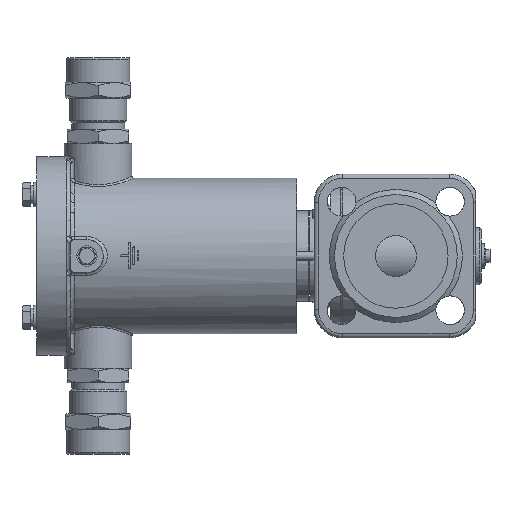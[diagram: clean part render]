
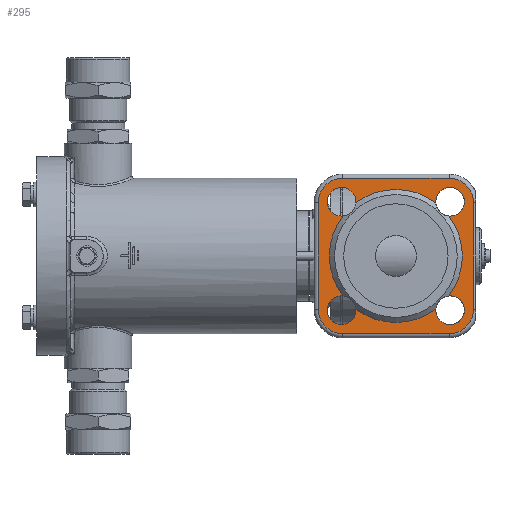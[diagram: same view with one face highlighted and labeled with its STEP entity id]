
A CAD part, left-side view. The second image highlights one B-rep face of the part: STEP entity #295.
In plain terms, the highlighted planar face has unit normal (-1, 0, 0).
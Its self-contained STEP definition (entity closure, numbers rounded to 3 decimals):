
#295=ADVANCED_FACE('',(#6980,#6982),#6984,.T.);
#6980=FACE_BOUND('',#6981,.T.);
#6981=EDGE_LOOP('',(#22052,#22053,#22054,#22055,#22056,#22057,#22058,#22059,#22060,
#22061,#22062,#22063,#22064));
#6982=FACE_OUTER_BOUND('',#6983,.T.);
#6983=EDGE_LOOP('',(#22065,#22066,#22067,#22068,#22069,#22070,#22071,#22072));
#6984=PLANE('',#6985);
#6985=AXIS2_PLACEMENT_3D('',#6986,#6987,#6988);
#6986=CARTESIAN_POINT('',(-63.5,0.,0.));
#6987=DIRECTION('',(-1.,0.,0.));
#6988=DIRECTION('',(0.,1.,0.));
#22052=ORIENTED_EDGE('',*,*,#34849,.T.);
#22053=ORIENTED_EDGE('',*,*,#34851,.T.);
#22054=ORIENTED_EDGE('',*,*,#34914,.T.);
#22055=ORIENTED_EDGE('',*,*,#34837,.T.);
#22056=ORIENTED_EDGE('',*,*,#34839,.T.);
#22057=ORIENTED_EDGE('',*,*,#34915,.T.);
#22058=ORIENTED_EDGE('',*,*,#34841,.T.);
#22059=ORIENTED_EDGE('',*,*,#34843,.T.);
#22060=ORIENTED_EDGE('',*,*,#34916,.T.);
#22061=ORIENTED_EDGE('',*,*,#34917,.T.);
#22062=ORIENTED_EDGE('',*,*,#34845,.T.);
#22063=ORIENTED_EDGE('',*,*,#34847,.T.);
#22064=ORIENTED_EDGE('',*,*,#34918,.T.);
#22065=ORIENTED_EDGE('',*,*,#34919,.T.);
#22066=ORIENTED_EDGE('',*,*,#34920,.T.);
#22067=ORIENTED_EDGE('',*,*,#34921,.T.);
#22068=ORIENTED_EDGE('',*,*,#34922,.T.);
#22069=ORIENTED_EDGE('',*,*,#34923,.T.);
#22070=ORIENTED_EDGE('',*,*,#34924,.T.);
#22071=ORIENTED_EDGE('',*,*,#34925,.T.);
#22072=ORIENTED_EDGE('',*,*,#34926,.T.);
#34837=EDGE_CURVE('',#39831,#39829,#39832,.F.);
#34839=EDGE_CURVE('',#39829,#39833,#39835,.F.);
#34841=EDGE_CURVE('',#39838,#39836,#39839,.F.);
#34843=EDGE_CURVE('',#39836,#39840,#39842,.F.);
#34845=EDGE_CURVE('',#39845,#39843,#39846,.F.);
#34847=EDGE_CURVE('',#39843,#39847,#39849,.F.);
#34849=EDGE_CURVE('',#39852,#39850,#39853,.F.);
#34851=EDGE_CURVE('',#39850,#39854,#39856,.F.);
#34914=EDGE_CURVE('',#39854,#39831,#39956,.T.);
#34915=EDGE_CURVE('',#39833,#39838,#39957,.T.);
#34916=EDGE_CURVE('',#39840,#39958,#39959,.T.);
#34917=EDGE_CURVE('',#39958,#39845,#39960,.T.);
#34918=EDGE_CURVE('',#39847,#39852,#39961,.T.);
#34919=EDGE_CURVE('',#39962,#39963,#39964,.F.);
#34920=EDGE_CURVE('',#39963,#39965,#39966,.T.);
#34921=EDGE_CURVE('',#39965,#39967,#39968,.F.);
#34922=EDGE_CURVE('',#39967,#39969,#39970,.T.);
#34923=EDGE_CURVE('',#39969,#39971,#39972,.F.);
#34924=EDGE_CURVE('',#39971,#39973,#39974,.T.);
#34925=EDGE_CURVE('',#39973,#39975,#39976,.F.);
#34926=EDGE_CURVE('',#39975,#39962,#39977,.T.);
#39829=VERTEX_POINT('',#51889);
#39831=VERTEX_POINT('',#51893);
#39832=CIRCLE('',#51894,7.);
#39833=VERTEX_POINT('',#51898);
#39835=CIRCLE('',#51997,7.);
#39836=VERTEX_POINT('',#52001);
#39838=VERTEX_POINT('',#52005);
#39839=CIRCLE('',#52006,7.);
#39840=VERTEX_POINT('',#52010);
#39842=CIRCLE('',#52109,7.);
#39843=VERTEX_POINT('',#52113);
#39845=VERTEX_POINT('',#52117);
#39846=CIRCLE('',#52118,7.);
#39847=VERTEX_POINT('',#52122);
#39849=CIRCLE('',#52221,7.);
#39850=VERTEX_POINT('',#52225);
#39852=VERTEX_POINT('',#52229);
#39853=CIRCLE('',#52230,7.);
#39854=VERTEX_POINT('',#52234);
#39856=CIRCLE('',#52333,7.);
#39956=CIRCLE('',#52825,32.5);
#39957=CIRCLE('',#52829,32.5);
#39958=VERTEX_POINT('',#52833);
#39959=CIRCLE('',#52834,32.5);
#39960=CIRCLE('',#52838,32.5);
#39961=CIRCLE('',#52842,32.5);
#39962=VERTEX_POINT('',#52846);
#39963=VERTEX_POINT('',#52847);
#39964=LINE('',#52848,#52849);
#39965=VERTEX_POINT('',#52851);
#39966=CIRCLE('',#52852,12.);
#39967=VERTEX_POINT('',#52856);
#39968=LINE('',#52857,#52858);
#39969=VERTEX_POINT('',#52860);
#39970=CIRCLE('',#52861,12.);
#39971=VERTEX_POINT('',#52865);
#39972=LINE('',#52866,#52867);
#39973=VERTEX_POINT('',#52869);
#39974=CIRCLE('',#52870,12.);
#39975=VERTEX_POINT('',#52874);
#39976=LINE('',#52875,#52876);
#39977=CIRCLE('',#52878,12.);
#51889=CARTESIAN_POINT('',(-63.5,-26.517,-33.517));
#51893=CARTESIAN_POINT('',(-63.5,-25.972,-19.538));
#51894=AXIS2_PLACEMENT_3D('',#51895,#51896,#51897);
#51895=CARTESIAN_POINT('',(-63.5,-26.517,-26.517));
#51896=DIRECTION('',(-1.,0.,-0.));
#51897=DIRECTION('',(0.,0.,-1.));
#51898=CARTESIAN_POINT('',(-63.5,-19.538,-25.972));
#51997=AXIS2_PLACEMENT_3D('',#51998,#51999,#52000);
#51998=CARTESIAN_POINT('',(-63.5,-26.517,-26.517));
#51999=DIRECTION('',(-1.,0.,-0.));
#52000=DIRECTION('',(0.,0.997,0.078));
#52001=CARTESIAN_POINT('',(-63.5,26.517,-33.517));
#52005=CARTESIAN_POINT('',(-63.5,19.538,-25.972));
#52006=AXIS2_PLACEMENT_3D('',#52007,#52008,#52009);
#52007=CARTESIAN_POINT('',(-63.5,26.517,-26.517));
#52008=DIRECTION('',(-1.,0.,-0.));
#52009=DIRECTION('',(0.,0.,-1.));
#52010=CARTESIAN_POINT('',(-63.5,25.972,-19.538));
#52109=AXIS2_PLACEMENT_3D('',#52110,#52111,#52112);
#52110=CARTESIAN_POINT('',(-63.5,26.517,-26.517));
#52111=DIRECTION('',(-1.,0.,-0.));
#52112=DIRECTION('',(0.,-0.078,0.997));
#52113=CARTESIAN_POINT('',(-63.5,26.517,19.517));
#52117=CARTESIAN_POINT('',(-63.5,25.972,19.538));
#52118=AXIS2_PLACEMENT_3D('',#52119,#52120,#52121);
#52119=CARTESIAN_POINT('',(-63.5,26.517,26.517));
#52120=DIRECTION('',(-1.,0.,-0.));
#52121=DIRECTION('',(0.,0.,-1.));
#52122=CARTESIAN_POINT('',(-63.5,19.538,25.972));
#52221=AXIS2_PLACEMENT_3D('',#52222,#52223,#52224);
#52222=CARTESIAN_POINT('',(-63.5,26.517,26.517));
#52223=DIRECTION('',(-1.,0.,-0.));
#52224=DIRECTION('',(0.,-0.997,-0.078));
#52225=CARTESIAN_POINT('',(-63.5,-26.517,19.517));
#52229=CARTESIAN_POINT('',(-63.5,-19.538,25.972));
#52230=AXIS2_PLACEMENT_3D('',#52231,#52232,#52233);
#52231=CARTESIAN_POINT('',(-63.5,-26.517,26.517));
#52232=DIRECTION('',(-1.,0.,-0.));
#52233=DIRECTION('',(0.,0.,-1.));
#52234=CARTESIAN_POINT('',(-63.5,-25.972,19.538));
#52333=AXIS2_PLACEMENT_3D('',#52334,#52335,#52336);
#52334=CARTESIAN_POINT('',(-63.5,-26.517,26.517));
#52335=DIRECTION('',(-1.,0.,-0.));
#52336=DIRECTION('',(0.,0.078,-0.997));
#52825=AXIS2_PLACEMENT_3D('',#52826,#52827,#52828);
#52826=CARTESIAN_POINT('',(-63.5,0.,0.));
#52827=DIRECTION('',(1.,0.,0.));
#52828=DIRECTION('',(0.,-0.799,0.601));
#52829=AXIS2_PLACEMENT_3D('',#52830,#52831,#52832);
#52830=CARTESIAN_POINT('',(-63.5,0.,0.));
#52831=DIRECTION('',(1.,0.,0.));
#52832=DIRECTION('',(0.,-0.601,-0.799));
#52833=CARTESIAN_POINT('',(-63.5,32.5,0.));
#52834=AXIS2_PLACEMENT_3D('',#52835,#52836,#52837);
#52835=CARTESIAN_POINT('',(-63.5,0.,0.));
#52836=DIRECTION('',(1.,0.,0.));
#52837=DIRECTION('',(0.,0.799,-0.601));
#52838=AXIS2_PLACEMENT_3D('',#52839,#52840,#52841);
#52839=CARTESIAN_POINT('',(-63.5,0.,0.));
#52840=DIRECTION('',(1.,0.,0.));
#52841=DIRECTION('',(0.,1.,0.));
#52842=AXIS2_PLACEMENT_3D('',#52843,#52844,#52845);
#52843=CARTESIAN_POINT('',(-63.5,0.,0.));
#52844=DIRECTION('',(1.,0.,0.));
#52845=DIRECTION('',(0.,0.601,0.799));
#52846=CARTESIAN_POINT('',(-63.5,26.,-38.));
#52847=CARTESIAN_POINT('',(-63.5,-26.,-38.));
#52848=CARTESIAN_POINT('',(-63.5,-26.,-38.));
#52849=VECTOR('',#52850,1.);
#52850=DIRECTION('',(0.,1.,0.));
#52851=CARTESIAN_POINT('',(-63.5,-38.,-26.));
#52852=AXIS2_PLACEMENT_3D('',#52853,#52854,#52855);
#52853=CARTESIAN_POINT('',(-63.5,-26.,-26.));
#52854=DIRECTION('',(-1.,0.,-0.));
#52855=DIRECTION('',(0.,0.,-1.));
#52856=CARTESIAN_POINT('',(-63.5,-38.,26.));
#52857=CARTESIAN_POINT('',(-63.5,-38.,26.));
#52858=VECTOR('',#52859,1.);
#52859=DIRECTION('',(0.,0.,-1.));
#52860=CARTESIAN_POINT('',(-63.5,-26.,38.));
#52861=AXIS2_PLACEMENT_3D('',#52862,#52863,#52864);
#52862=CARTESIAN_POINT('',(-63.5,-26.,26.));
#52863=DIRECTION('',(-1.,-0.,0.));
#52864=DIRECTION('',(0.,-1.,0.));
#52865=CARTESIAN_POINT('',(-63.5,26.,38.));
#52866=CARTESIAN_POINT('',(-63.5,26.,38.));
#52867=VECTOR('',#52868,1.);
#52868=DIRECTION('',(0.,-1.,0.));
#52869=CARTESIAN_POINT('',(-63.5,38.,26.));
#52870=AXIS2_PLACEMENT_3D('',#52871,#52872,#52873);
#52871=CARTESIAN_POINT('',(-63.5,26.,26.));
#52872=DIRECTION('',(-1.,0.,0.));
#52873=DIRECTION('',(0.,0.,1.));
#52874=CARTESIAN_POINT('',(-63.5,38.,-26.));
#52875=CARTESIAN_POINT('',(-63.5,38.,-26.));
#52876=VECTOR('',#52877,1.);
#52877=DIRECTION('',(0.,0.,1.));
#52878=AXIS2_PLACEMENT_3D('',#52879,#52880,#52881);
#52879=CARTESIAN_POINT('',(-63.5,26.,-26.));
#52880=DIRECTION('',(-1.,0.,0.));
#52881=DIRECTION('',(0.,1.,0.));
